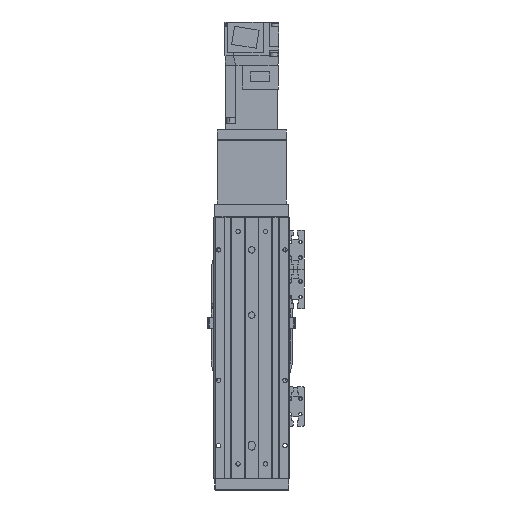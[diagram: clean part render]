
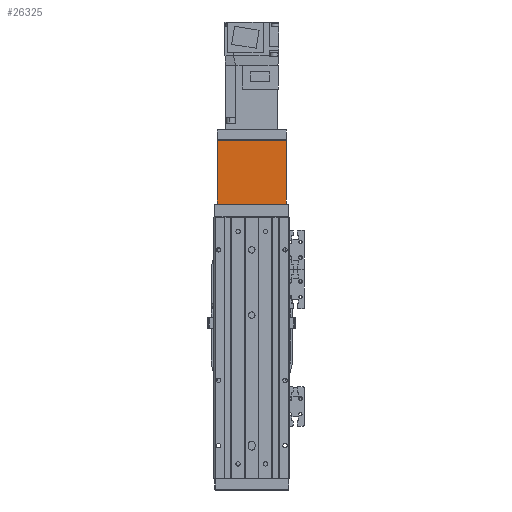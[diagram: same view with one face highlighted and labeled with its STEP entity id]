
A CAD part, front view. The second image highlights one B-rep face of the part: STEP entity #26325.
In plain terms, the highlighted planar face has unit normal (0, -1, 0) as drawn and (0, 0, 1) by its records, which use the part's own axes.
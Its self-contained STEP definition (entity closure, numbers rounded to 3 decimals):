
#255 = CARTESIAN_POINT ( 'NONE',  ( 26.5, -24.5, 22. ) ) ;
#904 = CARTESIAN_POINT ( 'NONE',  ( 26.5, 24.5, 22. ) ) ;
#965 = VERTEX_POINT ( 'NONE', #3888 ) ;
#1643 = EDGE_CURVE ( 'NONE', #10516, #13462, #31471, .T. ) ;
#3755 = CARTESIAN_POINT ( 'NONE',  ( 26.5, -24.5, 22. ) ) ;
#3888 = CARTESIAN_POINT ( 'NONE',  ( -26.5, -24.5, 22. ) ) ;
#3954 = CARTESIAN_POINT ( 'NONE',  ( 26.5, 24.5, 22. ) ) ;
#4492 = DIRECTION ( 'NONE',  ( 0., -1., 0. ) ) ;
#5481 = CARTESIAN_POINT ( 'NONE',  ( 26.5, 24.6, 22. ) ) ;
#5876 = DIRECTION ( 'NONE',  ( -1., 0., 0. ) ) ;
#6447 = VECTOR ( 'NONE', #17021, 1000. ) ;
#6758 = AXIS2_PLACEMENT_3D ( 'NONE', #20267, #31870, #5876 ) ;
#8465 = VERTEX_POINT ( 'NONE', #34567 ) ;
#8730 = PLANE ( 'NONE',  #6758 ) ;
#10516 = VERTEX_POINT ( 'NONE', #3954 ) ;
#11102 = ORIENTED_EDGE ( 'NONE', *, *, #1643, .F. ) ;
#12434 = DIRECTION ( 'NONE',  ( -1., 0., 0. ) ) ;
#13462 = VERTEX_POINT ( 'NONE', #255 ) ;
#14065 = VECTOR ( 'NONE', #12434, 1000. ) ;
#15277 = VECTOR ( 'NONE', #4492, 1000. ) ;
#15303 = DIRECTION ( 'NONE',  ( 1., 0., 0. ) ) ;
#16510 = EDGE_CURVE ( 'NONE', #10516, #8465, #26857, .T. ) ;
#16629 = EDGE_CURVE ( 'NONE', #8465, #965, #18872, .T. ) ;
#17021 = DIRECTION ( 'NONE',  ( 0., -1., 0. ) ) ;
#17986 = ORIENTED_EDGE ( 'NONE', *, *, #23025, .T. ) ;
#18872 = LINE ( 'NONE', #30473, #15277 ) ;
#20267 = CARTESIAN_POINT ( 'NONE',  ( 26.5, 24.6, 22. ) ) ;
#23025 = EDGE_CURVE ( 'NONE', #965, #13462, #29718, .T. ) ;
#26325 = ADVANCED_FACE ( 'NONE', ( #34738 ), #8730, .F. ) ;
#26461 = EDGE_LOOP ( 'NONE', ( #36345, #17986, #11102, #35968 ) ) ;
#26857 = LINE ( 'NONE', #904, #14065 ) ;
#29718 = LINE ( 'NONE', #3755, #35122 ) ;
#30473 = CARTESIAN_POINT ( 'NONE',  ( -26.5, 24.6, 22. ) ) ;
#31471 = LINE ( 'NONE', #5481, #6447 ) ;
#31870 = DIRECTION ( 'NONE',  ( 0., 0., -1. ) ) ;
#34567 = CARTESIAN_POINT ( 'NONE',  ( -26.5, 24.5, 22. ) ) ;
#34738 = FACE_OUTER_BOUND ( 'NONE', #26461, .T. ) ;
#35122 = VECTOR ( 'NONE', #15303, 1000. ) ;
#35968 = ORIENTED_EDGE ( 'NONE', *, *, #16510, .T. ) ;
#36345 = ORIENTED_EDGE ( 'NONE', *, *, #16629, .T. ) ;
